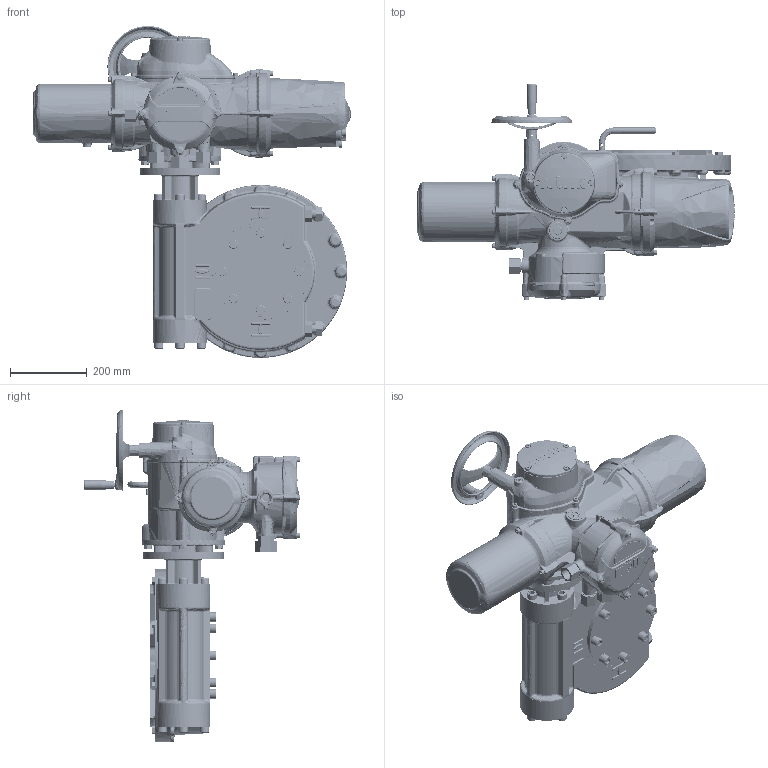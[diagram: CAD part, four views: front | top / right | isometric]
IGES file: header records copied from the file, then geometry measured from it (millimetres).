
Start section: C
Global section: file name: II3SHWIW7STD-1.igs; native system: By Siemens PLM Incorporated; preprocessor: XPlus GENERIC/IGES 16.0.42; author: Author; organization: Title; date: 20150115.163734; units: millimetre
Bounding box: 825.55 x 563.65 x 863.31 mm (x, y, z)
Surface area: 1956671.7 mm2 (no closed solid volume)
Topology: 0 solids, 0 shells, 8758 faces, 47478 edges, 47099 vertices
Faces by surface type: bspline 8758
